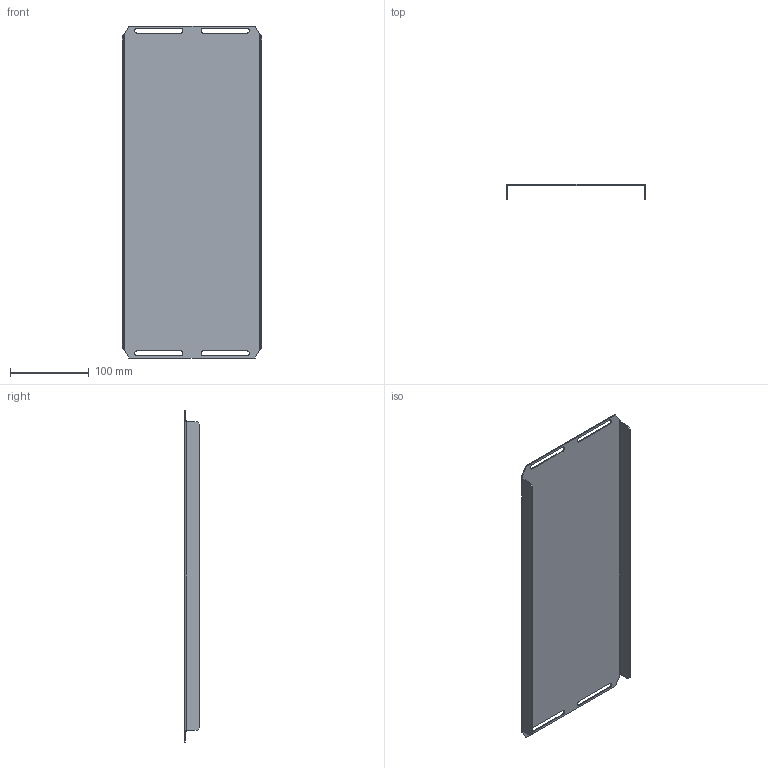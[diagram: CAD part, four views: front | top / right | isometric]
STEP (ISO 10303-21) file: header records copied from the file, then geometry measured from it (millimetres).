
FILE_DESCRIPTION (( 'STEP AP203' ), '1' );
FILE_NAME ('PKV 60 SH Ïàíåëü ñòàöèîíàðíàÿ.STEP', '2021-05-17T06:31:03', ( '' ), ( '' ), 'SwSTEP 2.0', 'SolidWorks 2018', '' );
FILE_SCHEMA (( 'CONFIG_CONTROL_DESIGN' ));
Length unit declared in the file: millimetre
Products named in the file (1): PKV 60 SH Ïàíåëü ñòàöèîíàðíàÿ
Bounding box: 177 x 19 x 420.5 mm (x, y, z)
Volume: 103111.6 mm3; surface area: 173950.3 mm2
Topology: 1 solids, 1 shells, 46 faces, 116 edges, 72 vertices
Faces by surface type: plane 30, cylinder 12, bspline 4
Entity records: 1561 total; most frequent: CARTESIAN_POINT 399, ORIENTED_EDGE 232, DIRECTION 202, EDGE_CURVE 116, LINE 84, VECTOR 84, VERTEX_POINT 72, AXIS2_PLACEMENT_3D 59
